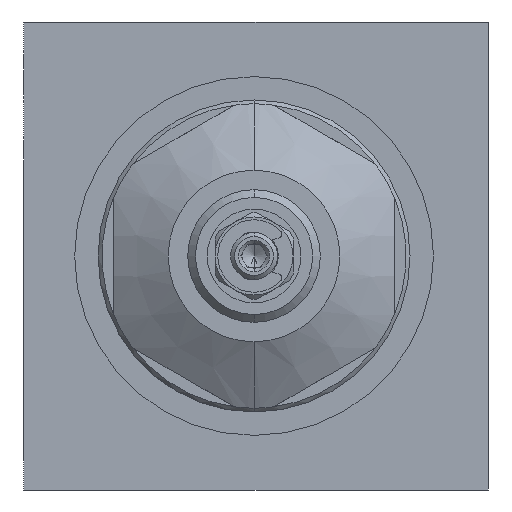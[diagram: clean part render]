
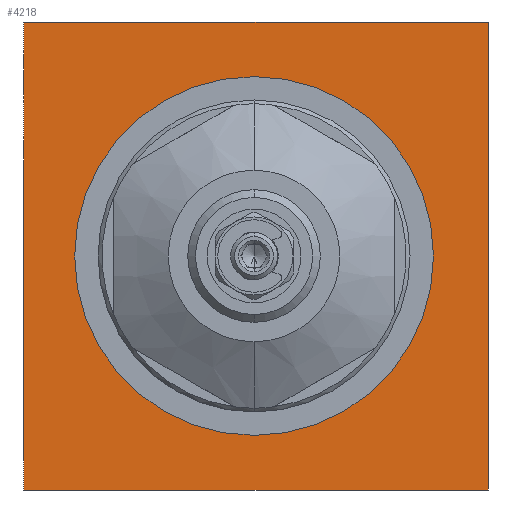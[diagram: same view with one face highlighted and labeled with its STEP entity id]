
A CAD part, left-side view. The second image highlights one B-rep face of the part: STEP entity #4218.
In plain terms, the highlighted planar face has unit normal (-1, 0, 0).
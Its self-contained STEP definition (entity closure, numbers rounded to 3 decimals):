
#245 = EDGE_CURVE ( 'NONE', #11696, #9970, #8160, .T. ) ;
#256 = VERTEX_POINT ( 'NONE', #10107 ) ;
#462 = VECTOR ( 'NONE', #505, 1000. ) ;
#505 = DIRECTION ( 'NONE',  ( 0., 1., 0. ) ) ;
#999 = CARTESIAN_POINT ( 'NONE',  ( 0., -29.75, 30. ) ) ;
#1203 = CARTESIAN_POINT ( 'NONE',  ( 0., -29.75, -30. ) ) ;
#1221 = PLANE ( 'NONE',  #7889 ) ;
#1886 = VECTOR ( 'NONE', #10207, 1000. ) ;
#2101 = ORIENTED_EDGE ( 'NONE', *, *, #3720, .F. ) ;
#2240 = FACE_BOUND ( 'NONE', #8693, .T. ) ;
#2469 = CARTESIAN_POINT ( 'NONE',  ( 0., -29.75, 30. ) ) ;
#2807 = DIRECTION ( 'NONE',  ( 0., -1., 0. ) ) ;
#3008 = LINE ( 'NONE', #8738, #3255 ) ;
#3255 = VECTOR ( 'NONE', #11132, 1000. ) ;
#3338 = DIRECTION ( 'NONE',  ( 0., 0., 1. ) ) ;
#3351 = DIRECTION ( 'NONE',  ( -1., 0., 0. ) ) ;
#3365 = CARTESIAN_POINT ( 'NONE',  ( 0., 0.25, 0. ) ) ;
#3523 = EDGE_CURVE ( 'NONE', #9970, #9111, #4791, .T. ) ;
#3720 = EDGE_CURVE ( 'NONE', #8900, #11696, #7051, .T. ) ;
#3867 = AXIS2_PLACEMENT_3D ( 'NONE', #9890, #9855, #9852 ) ;
#3889 = ORIENTED_EDGE ( 'NONE', *, *, #3523, .F. ) ;
#3901 = EDGE_CURVE ( 'NONE', #9111, #8900, #3008, .T. ) ;
#4218 = ADVANCED_FACE ( 'NONE', ( #5517, #2240 ), #1221, .T. ) ;
#4278 = CARTESIAN_POINT ( 'NONE',  ( 0., 29.75, -30. ) ) ;
#4791 = LINE ( 'NONE', #1203, #462 ) ;
#5517 = FACE_OUTER_BOUND ( 'NONE', #7799, .T. ) ;
#5541 = CARTESIAN_POINT ( 'NONE',  ( 0., 29.75, 30. ) ) ;
#5672 = CIRCLE ( 'NONE', #8347, 23. ) ;
#5968 = ORIENTED_EDGE ( 'NONE', *, *, #245, .F. ) ;
#6039 = CARTESIAN_POINT ( 'NONE',  ( 0., 0.25, -23. ) ) ;
#6092 = VECTOR ( 'NONE', #2807, 1000. ) ;
#6111 = DIRECTION ( 'NONE',  ( -1., 0., 0. ) ) ;
#6140 = CARTESIAN_POINT ( 'NONE',  ( 0., 29.75, -30. ) ) ;
#6205 = DIRECTION ( 'NONE',  ( 0., 0., 1. ) ) ;
#6531 = ORIENTED_EDGE ( 'NONE', *, *, #3901, .F. ) ;
#7051 = LINE ( 'NONE', #2469, #6092 ) ;
#7799 = EDGE_LOOP ( 'NONE', ( #3889, #5968, #2101, #6531 ) ) ;
#7889 = AXIS2_PLACEMENT_3D ( 'NONE', #6140, #6111, #6205 ) ;
#8160 = LINE ( 'NONE', #10322, #1886 ) ;
#8347 = AXIS2_PLACEMENT_3D ( 'NONE', #3365, #3351, #3338 ) ;
#8693 = EDGE_LOOP ( 'NONE', ( #12029, #11194 ) ) ;
#8738 = CARTESIAN_POINT ( 'NONE',  ( 0., 29.75, 30. ) ) ;
#8900 = VERTEX_POINT ( 'NONE', #5541 ) ;
#9111 = VERTEX_POINT ( 'NONE', #4278 ) ;
#9378 = CIRCLE ( 'NONE', #3867, 23. ) ;
#9654 = CARTESIAN_POINT ( 'NONE',  ( 0., -29.75, -30. ) ) ;
#9852 = DIRECTION ( 'NONE',  ( 0., 0., 1. ) ) ;
#9855 = DIRECTION ( 'NONE',  ( -1., 0., 0. ) ) ;
#9890 = CARTESIAN_POINT ( 'NONE',  ( 0., 0.25, 0. ) ) ;
#9970 = VERTEX_POINT ( 'NONE', #9654 ) ;
#10107 = CARTESIAN_POINT ( 'NONE',  ( 0., 0.25, 23. ) ) ;
#10207 = DIRECTION ( 'NONE',  ( 0., 0., -1. ) ) ;
#10322 = CARTESIAN_POINT ( 'NONE',  ( 0., -29.75, 30. ) ) ;
#10533 = EDGE_CURVE ( 'NONE', #10633, #256, #9378, .T. ) ;
#10633 = VERTEX_POINT ( 'NONE', #6039 ) ;
#11132 = DIRECTION ( 'NONE',  ( 0., 0., 1. ) ) ;
#11194 = ORIENTED_EDGE ( 'NONE', *, *, #10533, .F. ) ;
#11696 = VERTEX_POINT ( 'NONE', #999 ) ;
#12029 = ORIENTED_EDGE ( 'NONE', *, *, #12065, .F. ) ;
#12065 = EDGE_CURVE ( 'NONE', #256, #10633, #5672, .T. ) ;
